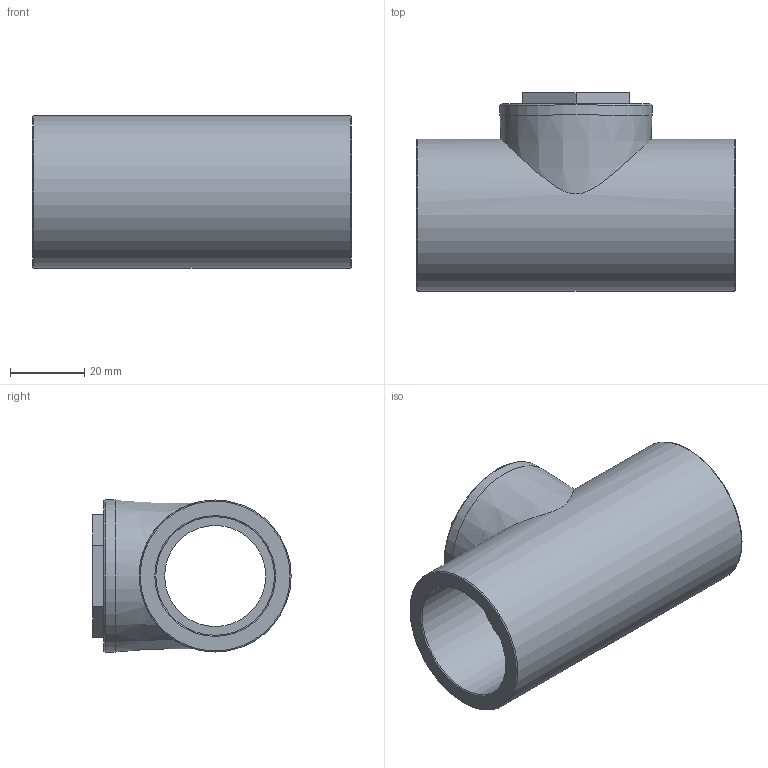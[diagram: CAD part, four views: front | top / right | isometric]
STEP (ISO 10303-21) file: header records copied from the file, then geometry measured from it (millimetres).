
FILE_DESCRIPTION(/* description */ ('PLASSON CHECK VALVE T-CLAPPERALVE-CEMENT 32'),/* implementation_level */ '2;1');
FILE_NAME(/* name */ 'C:\Dropbox\KIMPROJECTS-Inventor\99-16-3568-Processing\PVC Catalog 2017\050408\050408032.ipt.stp',/* time_stamp */ '2017-12-07T15:55:23+02:00',/* author */ ('KIM'),/* organization */ (''),/* preprocessor_version */ 'ST-DEVELOPER v15.6',/* originating_system */ 'Autodesk Inventor 2015',/* authorisation */ '');
FILE_SCHEMA (('AUTOMOTIVE_DESIGN { 1 0 10303 214 3 1 1 }'));
Length unit declared in the file: millimetre
Products named in the file (1): 050408032
Bounding box: 86 x 53.5 x 41 mm (x, y, z)
Volume: 71888 mm3; surface area: 22623.6 mm2
Topology: 1 solids, 1 shells, 23 faces, 48 edges, 30 vertices
Faces by surface type: plane 12, cylinder 5, torus 5, cone 1
Full cylindrical faces by diameter (mm): 27.262 x1, 32 x2, 41 x2
Entity records: 630 total; most frequent: CARTESIAN_POINT 159, DIRECTION 96, ORIENTED_EDGE 68, EDGE_LOOP 40, AXIS2_PLACEMENT_3D 39, EDGE_CURVE 34, VERTEX_POINT 28, FACE_OUTER_BOUND 23
